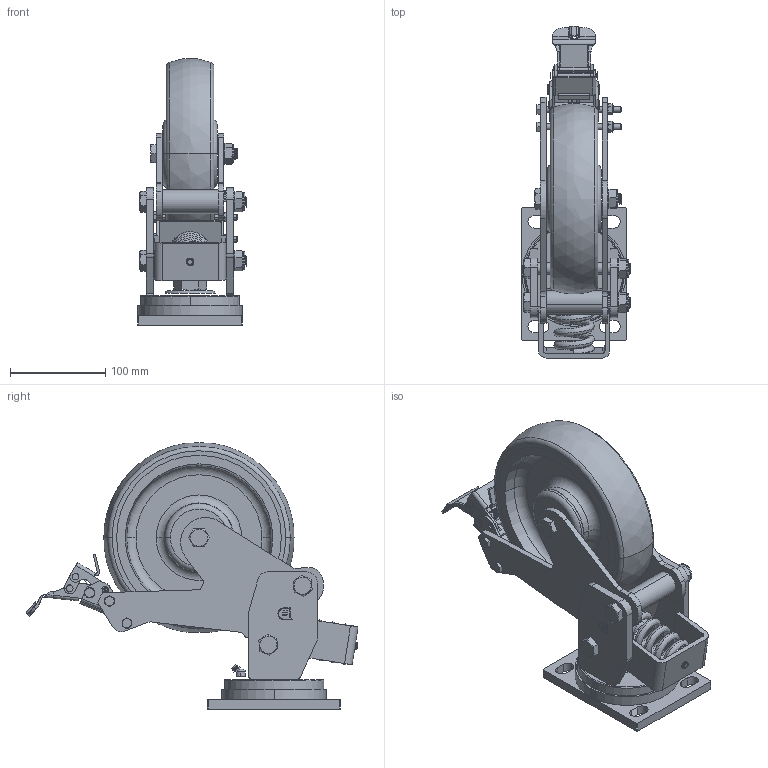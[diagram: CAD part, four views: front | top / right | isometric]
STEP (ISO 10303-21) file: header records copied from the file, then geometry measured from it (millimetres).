
FILE_DESCRIPTION((''),'2;1');
FILE_NAME('PRT0004','2025-09-14T08:18:43',('Administrator'),(''),'CREO PARAMETRIC BY PTC INC, 2022124','CREO PARAMETRIC BY PTC INC, 2022124','');
FILE_SCHEMA(('AUTOMOTIVE_DESIGN { 1 0 10303 214 1 1 1 1 }'));
Length unit declared in the file: millimetre
Products named in the file (1): PRT0004
Bounding box: 114 x 348.61 x 279.53 mm (x, y, z)
Surface area: 346052.9 mm2 (no closed solid volume)
Topology: 0 solids, 73 shells, 496 faces, 1719 edges, 1260 vertices
Faces by surface type: plane 246, cylinder 131, cone 57, bspline 31, torus 31
Entity records: 33255 total; most frequent: CARTESIAN_POINT 15340, DIRECTION 2928, ORIENTED_EDGE 2647, EDGE_CURVE 1721, VERTEX_POINT 1262, AXIS2_PLACEMENT_3D 1108, VECTOR 709, LINE 709
